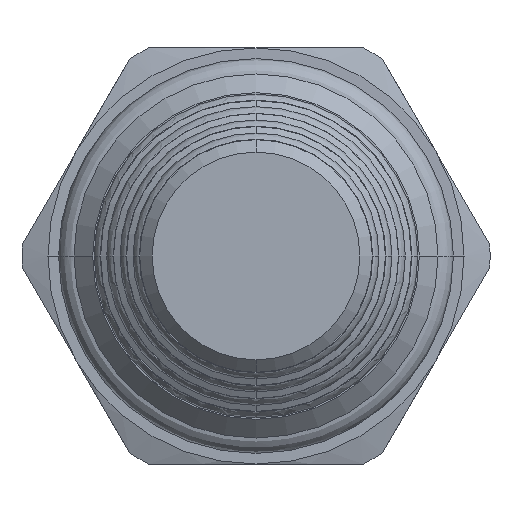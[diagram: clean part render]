
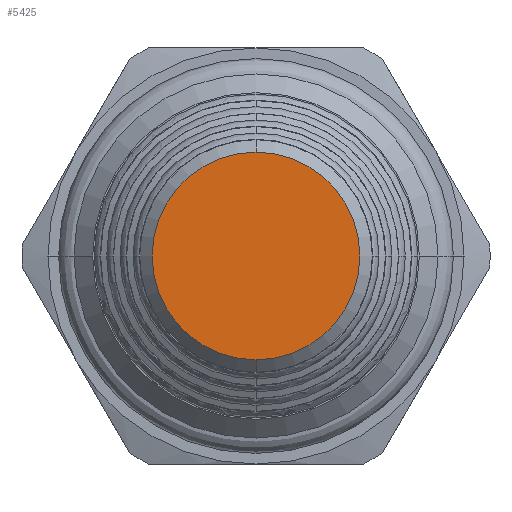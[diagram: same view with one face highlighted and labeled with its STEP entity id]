
A CAD part, front view. The second image highlights one B-rep face of the part: STEP entity #5425.
In plain terms, the highlighted planar face has unit normal (0, -1, 0).
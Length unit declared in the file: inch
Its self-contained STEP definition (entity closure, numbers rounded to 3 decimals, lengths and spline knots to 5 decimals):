
#2049=CARTESIAN_POINT('',(0.,-3.06273,0.));
#2050=DIRECTION('',(0.,-1.,0.));
#2051=DIRECTION('',(0.,0.,1.));
#2052=AXIS2_PLACEMENT_3D('',#2049,#2050,#2051);
#2067=CARTESIAN_POINT('',(0.,-3.06273,0.));
#2068=DIRECTION('',(0.,1.,0.));
#2069=DIRECTION('',(0.,0.,1.));
#2070=AXIS2_PLACEMENT_3D('',#2067,#2068,#2069);
#2197=CARTESIAN_POINT('',(0.,-3.06273,0.2495));
#2198=CARTESIAN_POINT('',(0.,-3.06273,-0.2495));
#2199=VERTEX_POINT('',#2197);
#2200=VERTEX_POINT('',#2198);
#5415=CARTESIAN_POINT('',(0.,-3.06273,0.));
#5416=DIRECTION('',(0.,1.,0.));
#5417=DIRECTION('',(0.,0.,-1.));
#5418=AXIS2_PLACEMENT_3D('',#5415,#5416,#5417);
#5419=PLANE('',#5418);
#5420=ORIENTED_EDGE('',*,*,#5405,.F.);
#5422=ORIENTED_EDGE('',*,*,#5421,.T.);
#5423=EDGE_LOOP('',(#5420,#5422));
#5424=FACE_OUTER_BOUND('',#5423,.F.);
#5425=ADVANCED_FACE('',(#5424),#5419,.F.);
#2053=CIRCLE('',#2052,0.2495);
#2071=CIRCLE('',#2070,0.2495);
#5405=EDGE_CURVE('',#2199,#2200,#2053,.T.);
#5421=EDGE_CURVE('',#2199,#2200,#2071,.T.);
